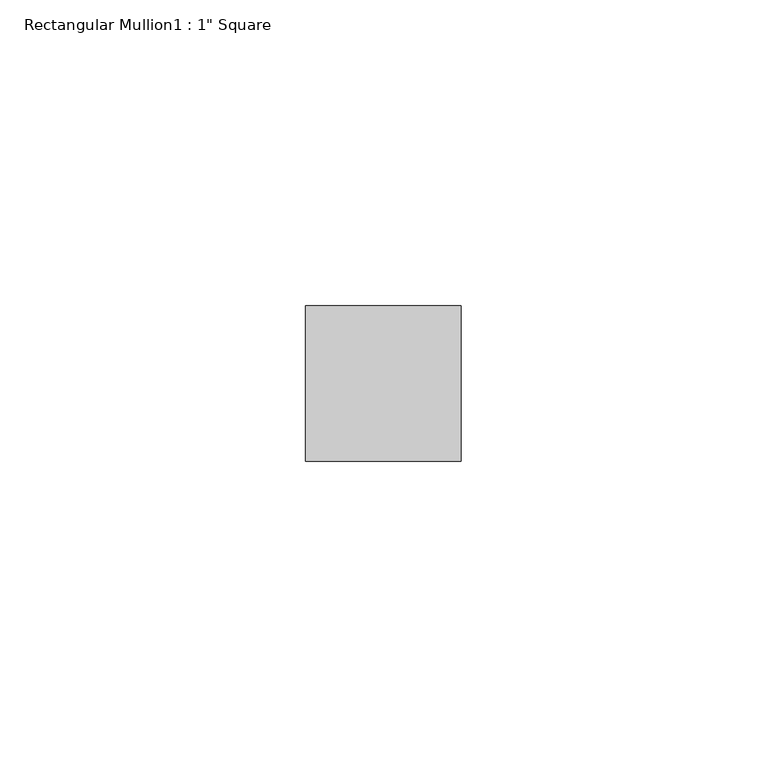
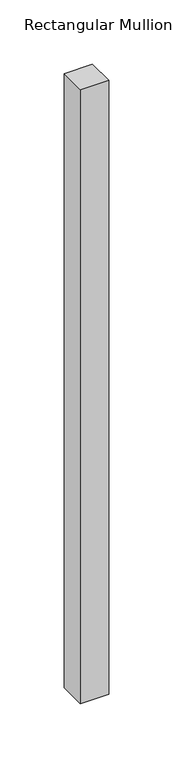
"""IFC4 building model written with IfcOpenShell, lengths in millimetres: member geometry."""

from ifc_helpers import new_model, si_unit, frame, origin, place, context, project, spatial, polyline, outline, extrude, source, transform, mapped, element, save


def member_8963dcaa(model_context):
    return source(origin(), model_context, "Body", "SweptSolid", [
        extrude(outline(polyline([(0.0, -19.05), (0.0, -44.45), (-25.4, -44.45), (-25.4, -19.05), (0.0, -19.05)])), frame((0.0, 0.0, -584.2), z_axis=(0.0, 0.0, 1.0), x_axis=(1.0, 0.0, 0.0)), (0.0, 0.0, 1.0), 584.2),
    ])


if __name__ == "__main__":
    model = new_model("IFC4")
    model_context = context("Model", 3, world=origin())
    ifc_project = project(units=[si_unit("LENGTHUNIT", "METRE", prefix="MILLI")], contexts=[model_context])
    site = spatial("IfcSite", under=ifc_project)
    building = spatial("IfcBuilding", under=site)
    placement = place(None, origin())
    member_shape = member_8963dcaa(model_context)
    element("IfcMember", 1, ObjectType="Rectangular Mullion1 : 1\" Square", at=placement, inside=building, context=model_context, shape_type="MappedRepresentation", body=[
        mapped(member_shape, transform((0.0, 0.0, 0.0), x_axis=(1.0, 0.0, 0.0), y_axis=(0.0, 1.0, 0.0), z_axis=(0.0, 0.0, 1.0))),
    ])
    save(model, "model.ifc")
